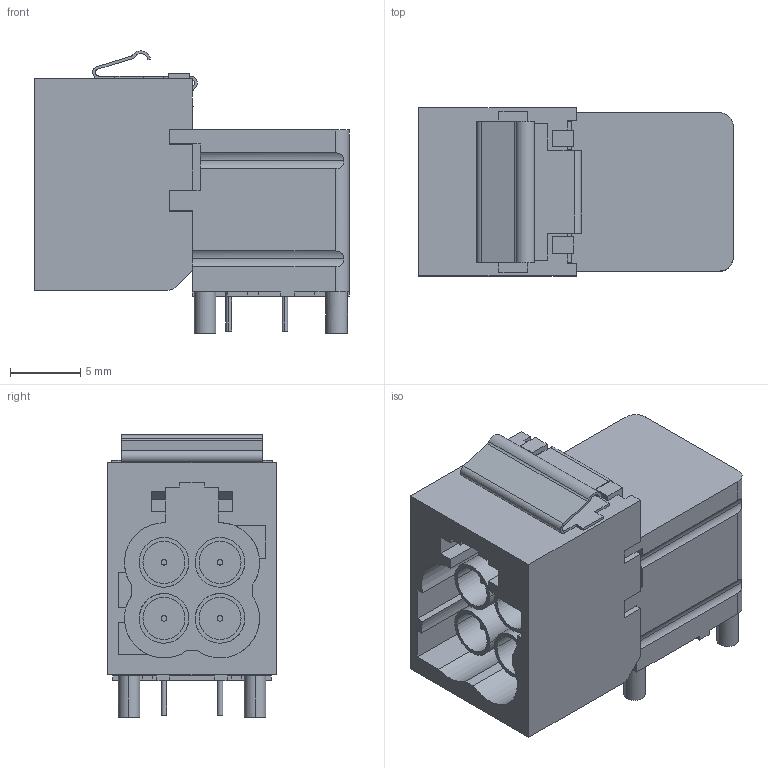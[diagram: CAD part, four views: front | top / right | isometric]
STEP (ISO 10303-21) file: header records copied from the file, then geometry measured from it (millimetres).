
FILE_DESCRIPTION(('CATIA V5 STEP','CAx-IF Rec.Pracs.--- Model Styling and Organization---1.5--- 2016-08-15','CAx-IF Rec.Pracs.---Supplemental Geometry---1.0---2011-11-01','CAx-IF Rec.Pracs.--- Composite Materials ---1.1---2010-07-15'),'2;1');
FILE_NAME('\\fss02.ad.sws.co.jp\fs100070\事務・購入\特命業務\特-35ｰ部品総合カタログメンテナンス\26年度\WEBカタログ用3D\260612_webカタログ新規登録用簡易3D\モデル保存場所\HFC5シリーズ\6099-1549.stp','2026-06-24T10:06:13+00:00',('none'),('none'),'CATIA Version 5-6 Release 2022 SP2 HF23','CATIA V5 STEP AP214 v2','none');
FILE_SCHEMA(('AUTOMOTIVE_DESIGN { 1 0 10303 214 1 1 1 1 }'));
Length unit declared in the file: millimetre
Products named in the file (1): 6099-1549
Bounding box: 22.45 x 12 x 20.15 mm (x, y, z)
Volume: 2620.3 mm3; surface area: 2964.3 mm2
Topology: 1 solids, 1 shells, 277 faces, 781 edges, 526 vertices
Faces by surface type: plane 206, cylinder 71
Entity records: 8378 total; most frequent: CARTESIAN_POINT 1639, ORIENTED_EDGE 1562, DIRECTION 1093, EDGE_CURVE 781, VECTOR 621, LINE 621, VERTEX_POINT 526, AXIS2_PLACEMENT_3D 303
